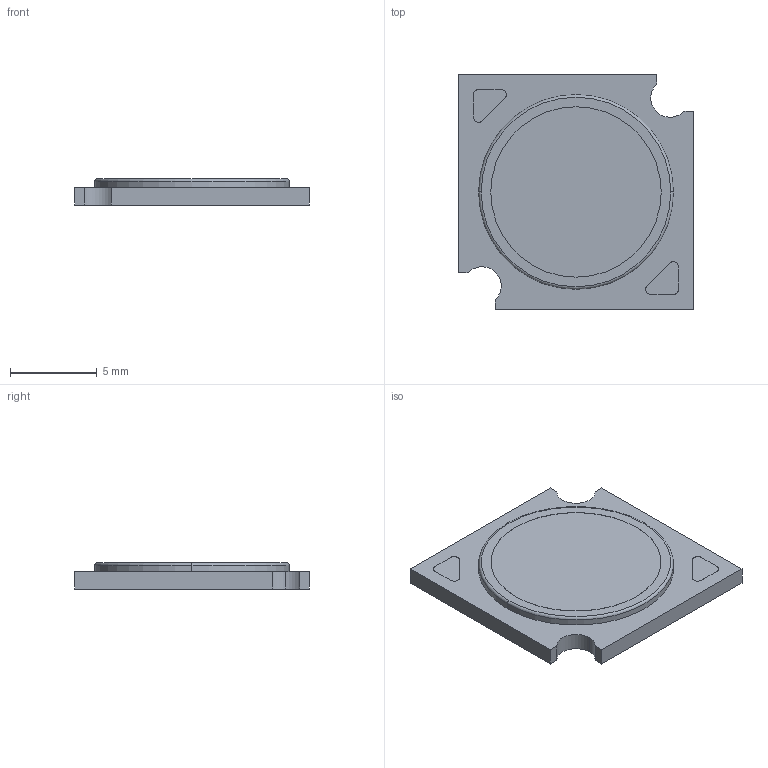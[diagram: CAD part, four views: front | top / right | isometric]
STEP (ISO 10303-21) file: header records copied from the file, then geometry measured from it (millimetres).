
FILE_DESCRIPTION((''),'2;1');
FILE_NAME('16212202_SLE-SNC8-LES-09-R','2022-03-22T08:18:03',('Bernhard.Fink'),(''),'CREO PARAMETRIC BY PTC INC, 2021184','CREO PARAMETRIC BY PTC INC, 2021184','');
FILE_SCHEMA(('CONFIG_CONTROL_DESIGN'));
Length unit declared in the file: millimetre
Products named in the file (1): 16212202_SLE-SNC8-LES-09-R
Bounding box: 13.5 x 13.5 x 1.5 mm (x, y, z)
Volume: 220.2 mm3; surface area: 414.2 mm2
Topology: 1 solids, 1 shells, 37 faces, 93 edges, 62 vertices
Faces by surface type: plane 22, cylinder 13, torus 2
Entity records: 1157 total; most frequent: DIRECTION 199, CARTESIAN_POINT 192, ORIENTED_EDGE 186, EDGE_CURVE 93, AXIS2_PLACEMENT_3D 69, VERTEX_POINT 62, VECTOR 61, LINE 61
